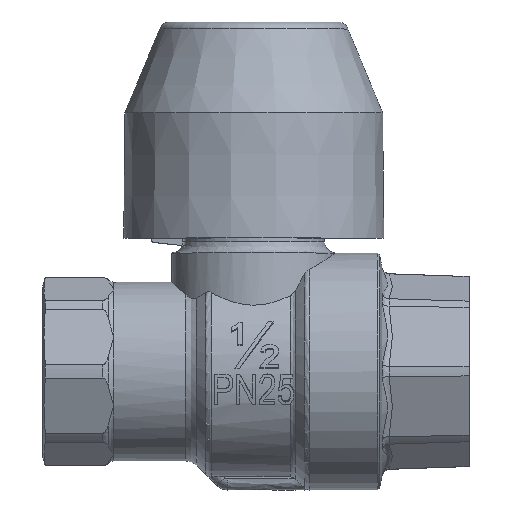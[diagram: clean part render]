
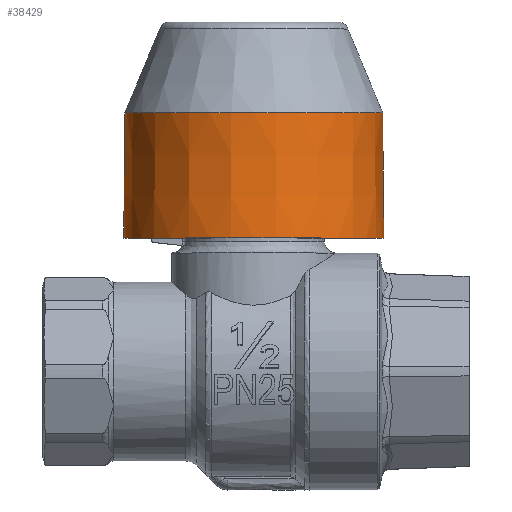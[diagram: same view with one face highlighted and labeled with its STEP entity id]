
A CAD part, top view. The second image highlights one B-rep face of the part: STEP entity #38429.
In plain terms, the highlighted conical face has half-angle 0.501 degrees and reference radius 17.377 mm.
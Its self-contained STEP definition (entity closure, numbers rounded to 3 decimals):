
#38395=CARTESIAN_POINT('',(3.003,34.707,0.));
#38396=VERTEX_POINT('',#38395);
#38397=CARTESIAN_POINT('',(-14.3,34.707,0.));
#38398=DIRECTION('',(0.0,-1.0,0.0));
#38399=DIRECTION('',(1.0,0.0,0.0));
#38400=AXIS2_PLACEMENT_3D('',#38397,#38398,#38399);
#38401=CIRCLE('',#38400,17.303);
#38402=EDGE_CURVE('',#38396,#38396,#38401,.T.);
#38410=CARTESIAN_POINT('',(-14.3,26.304,0.));
#38411=DIRECTION('',(0.,-1.0,0.));
#38412=DIRECTION('',(1.0,0.0,0.0));
#38413=AXIS2_PLACEMENT_3D('',#38410,#38411,#38412);
#38414=CONICAL_SURFACE('',#38413,17.376,0.501);
#38415=CARTESIAN_POINT('',(3.15,17.9,0.));
#38416=VERTEX_POINT('',#38415);
#38417=CARTESIAN_POINT('',(-14.3,17.9,0.));
#38418=DIRECTION('',(0.0,-1.0,0.0));
#38419=DIRECTION('',(1.0,0.0,0.0));
#38420=AXIS2_PLACEMENT_3D('',#38417,#38418,#38419);
#38421=CIRCLE('',#38420,17.45);
#38422=EDGE_CURVE('',#38416,#38416,#38421,.T.);
#38423=ORIENTED_EDGE('',*,*,#38422,.F.);
#38424=EDGE_LOOP('',(#38423));
#38425=FACE_OUTER_BOUND('',#38424,.T.);
#38426=ORIENTED_EDGE('',*,*,#38402,.T.);
#38427=EDGE_LOOP('',(#38426));
#38428=FACE_BOUND('',#38427,.T.);
#38429=ADVANCED_FACE('',(#38425,#38428),#38414,.T.);
